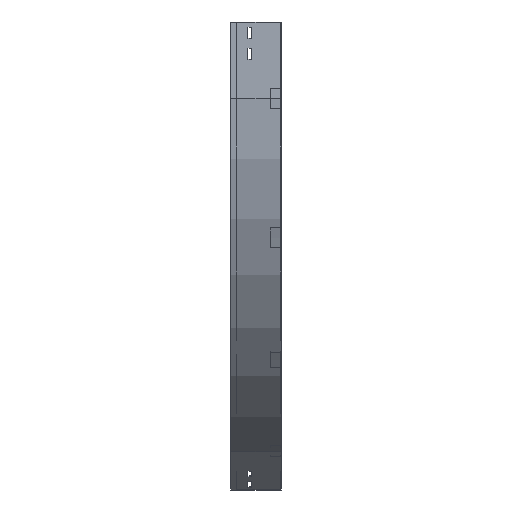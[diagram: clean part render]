
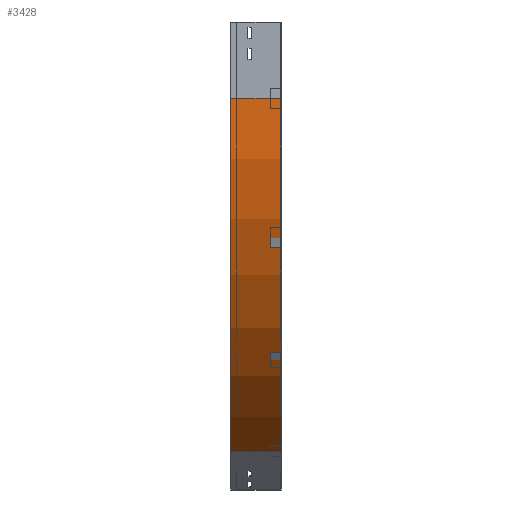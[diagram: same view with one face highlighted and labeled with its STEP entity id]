
A CAD part, left-side view. The second image highlights one B-rep face of the part: STEP entity #3428.
In plain terms, the highlighted cylindrical face has radius 800 mm (diameter 1600 mm), a partial arc.
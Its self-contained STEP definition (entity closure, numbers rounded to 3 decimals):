
#129 = ORIENTED_EDGE ( 'NONE', *, *, #387, .T. ) ;
#260 = AXIS2_PLACEMENT_3D ( 'NONE', #929, #1217, #1856 ) ;
#387 = EDGE_CURVE ( 'NONE', #1703, #2622, #2896, .T. ) ;
#568 = CARTESIAN_POINT ( 'NONE',  ( 400., 0., -842.82 ) ) ;
#590 = CARTESIAN_POINT ( 'NONE',  ( 800., 100., -150. ) ) ;
#613 = DIRECTION ( 'NONE',  ( 0., -1., 0. ) ) ;
#647 = DIRECTION ( 'NONE',  ( 0., -1., 0. ) ) ;
#691 = ORIENTED_EDGE ( 'NONE', *, *, #1603, .F. ) ;
#902 = AXIS2_PLACEMENT_3D ( 'NONE', #3590, #613, #2418 ) ;
#929 = CARTESIAN_POINT ( 'NONE',  ( 800., 0., -150. ) ) ;
#1122 = VERTEX_POINT ( 'NONE', #3483 ) ;
#1217 = DIRECTION ( 'NONE',  ( 0., -1., 0. ) ) ;
#1244 = LINE ( 'NONE', #568, #2831 ) ;
#1399 = AXIS2_PLACEMENT_3D ( 'NONE', #590, #647, #3025 ) ;
#1536 = CARTESIAN_POINT ( 'NONE',  ( 400., 0., -842.82 ) ) ;
#1551 = DIRECTION ( 'NONE',  ( 0., -1., 0. ) ) ;
#1603 = EDGE_CURVE ( 'NONE', #1122, #1853, #1961, .T. ) ;
#1615 = ORIENTED_EDGE ( 'NONE', *, *, #2983, .T. ) ;
#1703 = VERTEX_POINT ( 'NONE', #3399 ) ;
#1853 = VERTEX_POINT ( 'NONE', #1536 ) ;
#1856 = DIRECTION ( 'NONE',  ( 0., 0., -1. ) ) ;
#1896 = EDGE_LOOP ( 'NONE', ( #691, #2380, #129, #1615 ) ) ;
#1961 = CIRCLE ( 'NONE', #902, 800. ) ;
#2101 = VECTOR ( 'NONE', #1551, 1000. ) ;
#2173 = CYLINDRICAL_SURFACE ( 'NONE', #260, 800. ) ;
#2380 = ORIENTED_EDGE ( 'NONE', *, *, #3806, .F. ) ;
#2418 = DIRECTION ( 'NONE',  ( -1., 0., 0. ) ) ;
#2426 = CARTESIAN_POINT ( 'NONE',  ( 0., 0., -150. ) ) ;
#2622 = VERTEX_POINT ( 'NONE', #3547 ) ;
#2831 = VECTOR ( 'NONE', #3853, 1000. ) ;
#2896 = CIRCLE ( 'NONE', #1399, 800. ) ;
#2983 = EDGE_CURVE ( 'NONE', #2622, #1853, #1244, .T. ) ;
#3025 = DIRECTION ( 'NONE',  ( -1., 0., 0. ) ) ;
#3035 = LINE ( 'NONE', #2426, #2101 ) ;
#3399 = CARTESIAN_POINT ( 'NONE',  ( 0., 100., -150. ) ) ;
#3428 = ADVANCED_FACE ( 'NONE', ( #3663 ), #2173, .T. ) ;
#3483 = CARTESIAN_POINT ( 'NONE',  ( 0., 0., -150. ) ) ;
#3547 = CARTESIAN_POINT ( 'NONE',  ( 400., 100., -842.82 ) ) ;
#3590 = CARTESIAN_POINT ( 'NONE',  ( 800., 0., -150. ) ) ;
#3663 = FACE_OUTER_BOUND ( 'NONE', #1896, .T. ) ;
#3806 = EDGE_CURVE ( 'NONE', #1703, #1122, #3035, .T. ) ;
#3853 = DIRECTION ( 'NONE',  ( 0., -1., 0. ) ) ;
